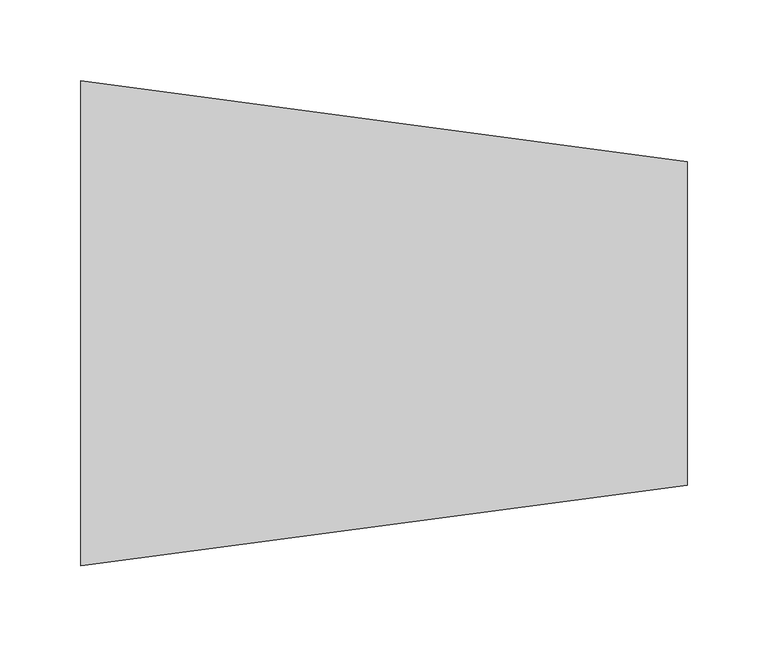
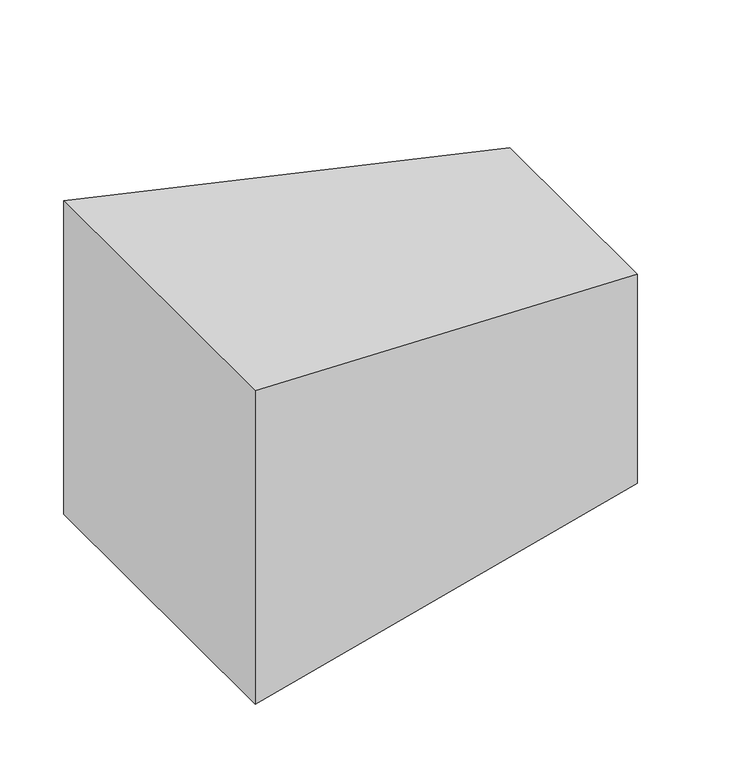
"""IFC4 building model written with IfcOpenShell, lengths in millimetres: duct fitting geometry, BL_ПереходникВоздуховодов_Прямоугольный : BL_ПереходникВоздуховодов_Прямоугольный."""

import ifcopenshell
import ifcopenshell.guid

model = None  # the IFC model being written
_history = None  # IfcOwnerHistory: only IFC2X3 demands one
_inside = {}  # id of a spatial element -> (the spatial element, [elements in it])
_under = {}  # id of a project, library or spatial element -> (it, [spatial elements below it])
_declared = {}  # id of a project -> (the project, [libraries it declares])
_typed = {}  # id of a type object -> (the type object, [elements of that type])
_made_of = {}  # id of a material, layer set ... -> (it, [elements and type objects made of it])


def new_model(schema):
    """Start an empty IFC model of exactly this schema.

    Asked for "IFC4X3", IfcOpenShell would pick the latest addendum, in which some entities
    have other attributes; the version numbers below select the first issue.
    IFC2X3 requires an IfcOwnerHistory on every rooted entity: one is made here for all.
    """
    global model, _history
    if schema == "IFC4X3":
        model = ifcopenshell.file(schema_version=(4, 3, 0, 0))
    else:
        model = ifcopenshell.file(schema=schema)
    _inside.clear()
    _under.clear()
    _declared.clear()
    _typed.clear()
    _made_of.clear()
    _history = None
    if model.schema == "IFC2X3":
        org = make("IfcOrganization", Name="unknown")
        user = make(
            "IfcPersonAndOrganization",
            ThePerson=make("IfcPerson", FamilyName="unknown"),
            TheOrganization=org,
        )
        app = make(
            "IfcApplication",
            ApplicationDeveloper=org,
            Version="unknown",
            ApplicationFullName="unknown",
            ApplicationIdentifier="unknown",
        )
        _history = make(
            "IfcOwnerHistory",
            OwningUser=user,
            OwningApplication=app,
            ChangeAction="ADDED",
            CreationDate=0,
        )
    return model


def make(cls, **values):
    """One entity of the class cls with the attributes given. An attribute that is None is left unset."""
    return model.create_entity(
        cls, **{name: value for name, value in values.items() if value is not None}
    )


def rooted(cls, **values):
    """An entity with a GlobalId (a new one), such as an element, a storey or a relation."""
    return make(cls, GlobalId=ifcopenshell.guid.new(), OwnerHistory=_history, **values)


def si_unit(unit_type, name, prefix=None):
    """IfcSIUnit, for example si_unit("LENGTHUNIT", "METRE", prefix="MILLI")."""
    return make("IfcSIUnit", UnitType=unit_type, Prefix=prefix, Name=name)


def assignment(units):
    """IfcUnitAssignment: the units of a project."""
    return None if units is None else make("IfcUnitAssignment", Units=units)


def point(xyz):
    """IfcCartesianPoint."""
    return None if xyz is None else make("IfcCartesianPoint", Coordinates=xyz)


def direction(xyz):
    """IfcDirection."""
    return None if xyz is None else make("IfcDirection", DirectionRatios=xyz)


def frame(location, z_axis=None, x_axis=None):
    """IfcAxis2Placement3D, a coordinate frame: its origin and axes. An axis left out is left unset."""
    return make(
        "IfcAxis2Placement3D",
        Location=point(location),
        Axis=direction(z_axis),
        RefDirection=direction(x_axis),
    )


def origin():
    """The frame at (0, 0, 0) with its axes left unset."""
    return frame((0.0, 0.0, 0.0))


def place(relative_to, where):
    """IfcLocalPlacement: puts the frame where relative to a parent placement (None: the world)."""
    return make(
        "IfcLocalPlacement", PlacementRelTo=relative_to, RelativePlacement=where
    )


def context(
    kind, dimensions, precision=None, world=None, true_north=None, identifier=None
):
    """IfcGeometricRepresentationContext, for example the 3D "Model" context."""
    return make(
        "IfcGeometricRepresentationContext",
        ContextIdentifier=identifier,
        ContextType=kind,
        CoordinateSpaceDimension=dimensions,
        Precision=precision,
        WorldCoordinateSystem=world,
        TrueNorth=true_north,
    )


def project(units=None, contexts=None):
    """IfcProject with its units and contexts."""
    return rooted(
        "IfcProject",
        Name="project",
        RepresentationContexts=contexts,
        UnitsInContext=assignment(units),
    )


def spatial(cls, under=None, at=None, **own):
    """A site, building, storey or space (cls), placed at a placement, below another one or the project."""
    s = rooted(cls, ObjectPlacement=at, **own)
    if under is not None:
        _under.setdefault(under.id(), (under, []))[1].append(s)
    return s


def faces_of(points, faces, orient=None, outer=None):
    """IfcFace entities. A face is a list of loops; a loop is a list of indices into points, from 0.

    orient and outer hold one flag for each loop. By default every Orientation is true, the
    first loop of a face is its IfcFaceOuterBound and the others are IfcFaceBound.
    """
    made = []
    for i, loops in enumerate(faces):
        bounds = []
        for j, loop in enumerate(loops):
            is_outer = j == 0 if outer is None else outer[i][j]
            bounds.append(
                make(
                    "IfcFaceOuterBound" if is_outer else "IfcFaceBound",
                    Bound=make("IfcPolyLoop", Polygon=[points[k] for k in loop]),
                    Orientation=True if orient is None else orient[i][j],
                )
            )
        made.append(make("IfcFace", Bounds=bounds))
    return made


def faceted_brep(points, faces, orient=None, outer=None, voids=None):
    """IfcFacetedBrep: a solid bounded by flat faces; with voids (closed shells), ...WithVoids."""
    shared = [point(p) for p in points]
    hull = make("IfcClosedShell", CfsFaces=faces_of(shared, faces, orient, outer))
    if voids is None:
        return make("IfcFacetedBrep", Outer=hull)
    return make(
        "IfcFacetedBrepWithVoids",
        Outer=hull,
        Voids=[
            make(cls, CfsFaces=faces_of(shared, fs, o, b)) for cls, fs, o, b in voids
        ],
    )


def shape(context_of_items, identifier, shape_type, items):
    """IfcShapeRepresentation: the items that make up one representation, for example the "Body"."""
    return make(
        "IfcShapeRepresentation",
        ContextOfItems=context_of_items,
        RepresentationIdentifier=identifier,
        RepresentationType=shape_type,
        Items=items,
    )


def source(mapping_origin, context_of_items, identifier, shape_type, items):
    """IfcRepresentationMap: a shape defined once, which mapped items show again and again."""
    return make(
        "IfcRepresentationMap",
        MappingOrigin=mapping_origin,
        MappedRepresentation=shape(context_of_items, identifier, shape_type, items),
    )


def transform(
    local_origin,
    x_axis=None,
    y_axis=None,
    z_axis=None,
    scale=None,
    scale2=None,
    scale3=None,
    uniform=True,
):
    """IfcCartesianTransformationOperator3D, or its non-uniform kind. x_axis, y_axis, z_axis: its Axis1, 2, 3."""
    if uniform:
        return make(
            "IfcCartesianTransformationOperator3D",
            Axis1=direction(x_axis),
            Axis2=direction(y_axis),
            LocalOrigin=point(local_origin),
            Scale=scale,
            Axis3=direction(z_axis),
        )
    return make(
        "IfcCartesianTransformationOperator3DnonUniform",
        Axis1=direction(x_axis),
        Axis2=direction(y_axis),
        LocalOrigin=point(local_origin),
        Scale=scale,
        Axis3=direction(z_axis),
        Scale2=scale2,
        Scale3=scale3,
    )


def mapped(mapping_source, mapping_target):
    """IfcMappedItem: shows the shape of a source again, moved by a transform."""
    return make(
        "IfcMappedItem", MappingSource=mapping_source, MappingTarget=mapping_target
    )


def made_of(thing, what):
    """Note that an element or type object is made of a material, layer set ...; save() writes the relation."""
    if what is not None:
        _made_of.setdefault(what.id(), (what, []))[1].append(thing)
    return thing


def element(
    cls,
    number,
    at=None,
    inside=None,
    cuts=None,
    type_object=None,
    material=None,
    context=None,
    identifier="Body",
    shape_type=None,
    held_by="IfcProductDefinitionShape",
    body=None,
    shapes=None,
    **own,
):
    """One element of the class cls, such as IfcWall. Its Tag is "e" and its number.

    at: its placement. inside: the storey or other place that contains it. cuts: it is an
    opening in that element (IfcRelVoidsElement). A single representation is given by context,
    identifier, shape_type and body (its items); several are given by shapes. held_by: the class
    of the entity that holds the representations. save() writes the other relations.
    """
    e = rooted(cls, Tag="e%d" % number, ObjectPlacement=at, **own)
    if body is not None:
        shapes = [shape(context, identifier, shape_type, body)]
    if shapes is not None:
        e.Representation = make(held_by, Representations=shapes)
    if inside is not None:
        _inside.setdefault(inside.id(), (inside, []))[1].append(e)
    if cuts is not None:
        rooted(
            "IfcRelVoidsElement", RelatingBuildingElement=cuts, RelatedOpeningElement=e
        )
    if type_object is not None:
        _typed.setdefault(type_object.id(), (type_object, []))[1].append(e)
    return made_of(e, material)


def aggregate(whole, parts):
    """IfcRelAggregates: a whole, such as a stair, and the parts it consists of."""
    return rooted("IfcRelAggregates", RelatingObject=whole, RelatedObjects=parts)


def save(model, path):
    """Write the relations noted so far, then the file.

    IfcRelAggregates (storeys below a building ...), IfcRelContainedInSpatialStructure (elements
    in a storey), IfcRelDefinesByType, IfcRelAssociatesMaterial and IfcRelDeclares: one each for
    every whole, place, type object, material and project.
    """
    for whole, parts in _under.values():
        aggregate(whole, parts)
    for where, things in _inside.values():
        rooted(
            "IfcRelContainedInSpatialStructure",
            RelatedElements=things,
            RelatingStructure=where,
        )
    for kind, things in _typed.values():
        rooted("IfcRelDefinesByType", RelatedObjects=things, RelatingType=kind)
    for what, things in _made_of.values():
        rooted("IfcRelAssociatesMaterial", RelatedObjects=things, RelatingMaterial=what)
    for by, libraries in _declared.values():
        rooted("IfcRelDeclares", RelatingContext=by, RelatedDefinitions=libraries)
    model.write(path)


def duct_fitting_d50b9d73(model_context):
    return source(origin(), model_context, "Body", "Brep", [
        faceted_brep([(375.0, -100.0, 100.0), (375.0, -100.0, -100.0), (375.0, 100.0, -100.0), (375.0, 100.0, 100.0), (0.0, -150.0, 150.0), (0.0, 150.0, 150.0), (0.0, 150.0, -150.0), (0.0, -150.0, -150.0)], [[[0, 1, 2, 3]], [[4, 5, 6, 7]], [[4, 7, 1, 0]], [[7, 6, 2, 1]], [[6, 5, 3, 2]], [[5, 4, 0, 3]]]),
    ])


if __name__ == "__main__":
    model = new_model("IFC4")
    model_context = context("Model", 3, world=origin())
    ifc_project = project(units=[si_unit("LENGTHUNIT", "METRE", prefix="MILLI")], contexts=[model_context])
    site = spatial("IfcSite", under=ifc_project)
    building = spatial("IfcBuilding", under=site)
    placement = place(None, origin())
    duct_fitting_shape = duct_fitting_d50b9d73(model_context)
    element("IfcDuctFitting", 1, ObjectType="BL_ПереходникВоздуховодов_Прямоугольный : BL_ПереходникВоздуховодов_Прямоугольный", at=placement, inside=building, context=model_context, shape_type="MappedRepresentation", body=[
        mapped(duct_fitting_shape, transform((0.0, 0.0, 0.0), x_axis=(1.0, 0.0, 0.0), y_axis=(0.0, 1.0, 0.0), z_axis=(0.0, 0.0, 1.0))),
    ])
    save(model, "model.ifc")
